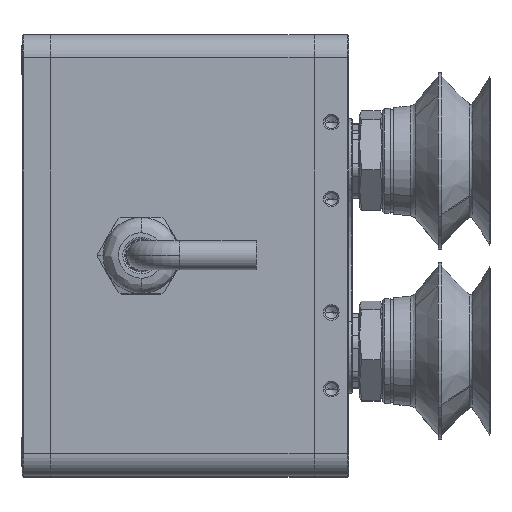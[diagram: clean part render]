
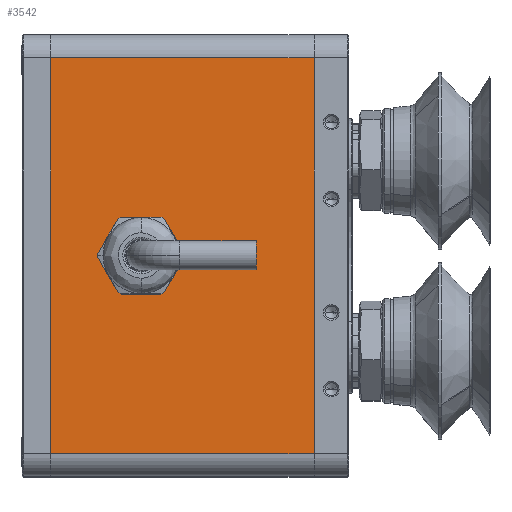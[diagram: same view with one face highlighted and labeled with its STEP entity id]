
A CAD part, top view. The second image highlights one B-rep face of the part: STEP entity #3542.
In plain terms, the highlighted planar face has unit normal (0, 0, 1).
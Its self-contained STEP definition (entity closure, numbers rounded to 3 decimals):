
#1238 = EDGE_CURVE ( 'NONE', #48657, #40950, #38860, .T. ) ;
#1746 = VERTEX_POINT ( 'NONE', #38308 ) ;
#3542 = ADVANCED_FACE ( 'NONE', ( #48359, #34071 ), #38625, .F. ) ;
#6366 = VERTEX_POINT ( 'NONE', #47330 ) ;
#8913 = VECTOR ( 'NONE', #15383, 1000. ) ;
#9314 = DIRECTION ( 'NONE',  ( 0., -1., 0. ) ) ;
#10660 = CARTESIAN_POINT ( 'NONE',  ( -80.5, -51.5, 50. ) ) ;
#11558 = EDGE_LOOP ( 'NONE', ( #52029, #35064 ) ) ;
#12704 = CARTESIAN_POINT ( 'NONE',  ( -57., 0., 50. ) ) ;
#13034 = ORIENTED_EDGE ( 'NONE', *, *, #42907, .F. ) ;
#14268 = ORIENTED_EDGE ( 'NONE', *, *, #46156, .F. ) ;
#14512 = CARTESIAN_POINT ( 'NONE',  ( -63.2, 0., 50. ) ) ;
#15304 = EDGE_CURVE ( 'NONE', #40950, #48657, #17589, .T. ) ;
#15383 = DIRECTION ( 'NONE',  ( 0., 1., 0. ) ) ;
#15425 = CARTESIAN_POINT ( 'NONE',  ( -12., 51.5, 50. ) ) ;
#15451 = DIRECTION ( 'NONE',  ( -1., 0., 0. ) ) ;
#17589 = CIRCLE ( 'NONE', #24853, 6.2 ) ;
#17774 = EDGE_CURVE ( 'NONE', #1746, #38616, #52303, .T. ) ;
#18156 = DIRECTION ( 'NONE',  ( 1., 0., 0. ) ) ;
#20639 = DIRECTION ( 'NONE',  ( -1., 0., 0. ) ) ;
#21055 = CARTESIAN_POINT ( 'NONE',  ( -80.5, -51.5, 50. ) ) ;
#22893 = DIRECTION ( 'NONE',  ( 0., 0., -1. ) ) ;
#23092 = VERTEX_POINT ( 'NONE', #40308 ) ;
#24853 = AXIS2_PLACEMENT_3D ( 'NONE', #55081, #22893, #60464 ) ;
#25623 = ORIENTED_EDGE ( 'NONE', *, *, #17774, .F. ) ;
#25869 = AXIS2_PLACEMENT_3D ( 'NONE', #28097, #65620, #33505 ) ;
#28097 = CARTESIAN_POINT ( 'NONE',  ( -12., 51.5, 50. ) ) ;
#28622 = LINE ( 'NONE', #15425, #55512 ) ;
#30552 = VECTOR ( 'NONE', #9314, 1000. ) ;
#33505 = DIRECTION ( 'NONE',  ( 1., 0., 0. ) ) ;
#34071 = FACE_OUTER_BOUND ( 'NONE', #48818, .T. ) ;
#35064 = ORIENTED_EDGE ( 'NONE', *, *, #15304, .T. ) ;
#36891 = CARTESIAN_POINT ( 'NONE',  ( -12., -51.5, 50. ) ) ;
#38308 = CARTESIAN_POINT ( 'NONE',  ( -12., -51.5, 50. ) ) ;
#38616 = VERTEX_POINT ( 'NONE', #10660 ) ;
#38625 = PLANE ( 'NONE',  #25869 ) ;
#38860 = CIRCLE ( 'NONE', #48424, 6.2 ) ;
#40308 = CARTESIAN_POINT ( 'NONE',  ( -80.5, 51.5, 50. ) ) ;
#40950 = VERTEX_POINT ( 'NONE', #51171 ) ;
#42907 = EDGE_CURVE ( 'NONE', #38616, #23092, #50219, .T. ) ;
#44752 = LINE ( 'NONE', #63198, #30552 ) ;
#46156 = EDGE_CURVE ( 'NONE', #6366, #1746, #44752, .T. ) ;
#46328 = ORIENTED_EDGE ( 'NONE', *, *, #46754, .T. ) ;
#46754 = EDGE_CURVE ( 'NONE', #6366, #23092, #28622, .T. ) ;
#47330 = CARTESIAN_POINT ( 'NONE',  ( -12., 51.5, 50. ) ) ;
#48359 = FACE_BOUND ( 'NONE', #11558, .T. ) ;
#48424 = AXIS2_PLACEMENT_3D ( 'NONE', #12704, #50386, #18156 ) ;
#48657 = VERTEX_POINT ( 'NONE', #14512 ) ;
#48818 = EDGE_LOOP ( 'NONE', ( #46328, #13034, #25623, #14268 ) ) ;
#50219 = LINE ( 'NONE', #21055, #8913 ) ;
#50386 = DIRECTION ( 'NONE',  ( 0., 0., -1. ) ) ;
#50563 = VECTOR ( 'NONE', #15451, 1000. ) ;
#51171 = CARTESIAN_POINT ( 'NONE',  ( -50.8, 0., 50. ) ) ;
#52029 = ORIENTED_EDGE ( 'NONE', *, *, #1238, .T. ) ;
#52303 = LINE ( 'NONE', #36891, #50563 ) ;
#55081 = CARTESIAN_POINT ( 'NONE',  ( -57., 0., 50. ) ) ;
#55512 = VECTOR ( 'NONE', #20639, 1000. ) ;
#60464 = DIRECTION ( 'NONE',  ( 1., 0., 0. ) ) ;
#63198 = CARTESIAN_POINT ( 'NONE',  ( -12., 51.5, 50. ) ) ;
#65620 = DIRECTION ( 'NONE',  ( 0., 0., -1. ) ) ;
